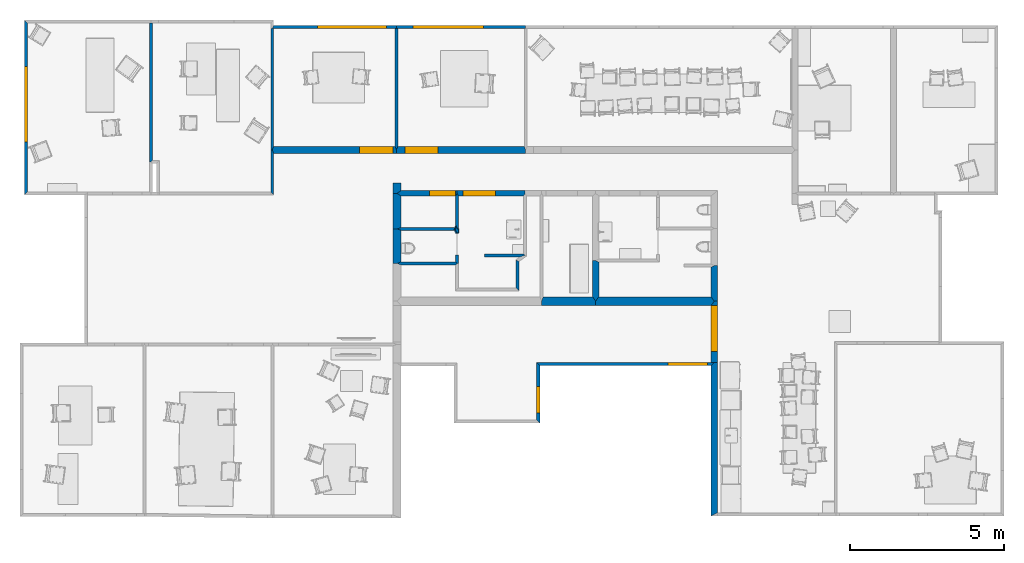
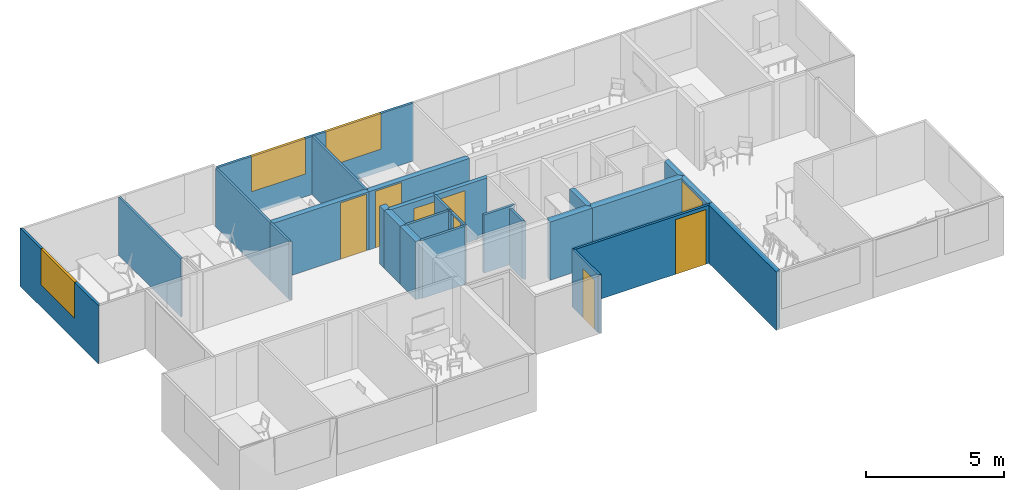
# One storey, part 3 of 26: 30 walls, 7 doors, 3 windows, 11 openings.
"""IFC2X3 building model written with IfcOpenShell, lengths in metres."""

from ifc_helpers import new_model, si_unit, direction, frame, origin_with_axes, place, context, subcontext, project, spatial, polyline, outline, extrude, type_object, element, fill, save


model = new_model("IFC2X3")

# Units and contexts
model_context = context("Model", 3, precision=1e-05, world=origin_with_axes(), true_north=direction((0.996, -0.093, 0.0)))
body_context = subcontext(model_context, "Body", "Model", "MODEL_VIEW")
ifc_project = project(units=[si_unit("AREAUNIT", "SQUARE_METRE"), si_unit("LENGTHUNIT", "METRE")], contexts=[model_context])

# Site, building, storey
site_placement = place(None, origin_with_axes())
site = spatial("IfcSite", under=ifc_project, at=site_placement, Name="Site", CompositionType="ELEMENT")
building_placement = place(site_placement, origin_with_axes())
building = spatial("IfcBuilding", under=site, at=building_placement, Name="Building", CompositionType="ELEMENT")
storey_placement = place(building_placement, frame((0.0, 0.0, 0.0500001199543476), z_axis=(0.0, 0.0, 1.0), x_axis=(1.0, 0.0, 0.0)))
storey = spatial("IfcBuildingStorey", under=building, at=storey_placement, Name="Story 0", CompositionType="ELEMENT", Elevation=0.0500000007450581)

# Wall, opening, window
wall_type_1 = type_object("IfcWallType", PredefinedType="STANDARD")
wall_1_placement = place(storey_placement, frame((6.05685252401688, 11.0852169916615, 0.0), z_axis=(0.0, 0.0, 1.0), x_axis=(1.0, 0.0, 0.0)))
wall_1 = element("IfcWallStandardCase", 1, at=wall_1_placement, inside=storey, type_object=wall_type_1, Name="Wall", context=body_context, shape_type="SweptSolid", body=[
    extrude(outline(polyline([(0.0, 0.0), (-0.0463822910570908, 5.68577108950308e-07), (0.00022896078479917, 0.100000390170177), (3.99570285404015, 0.100001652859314), (3.9957027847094, 1.6428992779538e-06), (3.94932049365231, 2.21147638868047e-06), (0.0, 0.0)])), origin_with_axes(), (0.0, 0.0, 1.0), 2.57293934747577),
])
opening_1_placement = place(wall_1_placement, frame((1.42447368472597, 0.0, 1.01125049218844), z_axis=(0.0, 0.0, 1.0), x_axis=(0.999999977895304, 0.0, 0.0)))
opening_1 = element("IfcOpeningElement", 2, at=opening_1_placement, cuts=wall_1, Name="OpeningElement", ObjectType="OPENING", context=body_context, shape_type="SweptSolid", body=[
    extrude(outline(polyline([(0.0, 0.0), (2.24892942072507, 0.0), (2.24892942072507, 1.5616888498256), (0.0, 1.5616888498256), (0.0, 0.0)])), frame((0.0, 0.0, 0.0), z_axis=(0.0, -1.0, 0.0), x_axis=(1.0, 0.0, 0.0)), (0.0, 0.0, -1.0), 0.100099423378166),
])
window_style_1 = type_object("IfcWindowStyle", Name="1aea7ef1-2002-4d68-9633-a0366e1a2a45", ConstructionType="ALUMINIUM", OperationType="SINGLE_PANEL", ParameterTakesPrecedence=True, Sizeable=True)
window_1_placement = place(opening_1_placement, origin_with_axes())
window_1 = element("IfcWindow", 3, at=window_1_placement, inside=storey, type_object=window_style_1, Name="Window", OverallHeight=1.5, OverallWidth=0.5, context=body_context, shape_type="SweptSolid", body=[
    extrude(outline(polyline([(0.0, 0.0), (-2.24892928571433, 0.0), (-2.24892928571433, 1.56168878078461), (0.0, 1.56168878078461), (0.0, 0.0)])), frame((0.0, 0.099999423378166, 0.0), z_axis=(0.0, 1.0, 0.0), x_axis=(-1.0, 0.0, 0.0)), (0.0, 0.0, -1.0), 0.099999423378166),
])
fill(opening_1, window_1)

# Wall, opening, door
wall_type_2 = type_object("IfcWallType", PredefinedType="STANDARD")
wall_2_placement = place(storey_placement, frame((6.05727640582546, 7.02928423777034, 0.0), z_axis=(0.0, 0.0, 1.0), x_axis=(1.0, 0.0, 0.0)))
wall_2 = element("IfcWallStandardCase", 4, at=wall_2_placement, inside=storey, type_object=wall_type_2, Name="Wall", context=body_context, shape_type="SweptSolid", body=[
    extrude(outline(polyline([(0.0, 0.0), (-0.0463825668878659, 0.114025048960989), (-1.24242034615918e-05, 0.228050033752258), (3.94889829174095, 0.22805289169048), (3.99528077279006, 0.114026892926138), (3.99528104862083, 2.41254225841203e-06), (0.0, 0.0)])), origin_with_axes(), (0.0, 0.0, 1.0), 2.57293934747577),
])
opening_2_placement = place(wall_2_placement, frame((2.79951395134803, 0.0, 0.0), z_axis=(0.0, 0.0, 1.0), x_axis=(1.00000002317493, 0.0, 0.0)))
opening_2 = element("IfcOpeningElement", 5, at=opening_2_placement, cuts=wall_2, Name="OpeningElement", ObjectType="OPENING", context=body_context, shape_type="SweptSolid", body=[
    extrude(outline(polyline([(0.0, 0.0), (1.08285600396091, 0.0), (1.08285600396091, 2.49675686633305), (0.0, 2.49675686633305), (0.0, 0.0)])), frame((0.0, 0.0, 0.0), z_axis=(0.0, -1.0, 0.0), x_axis=(1.0, 0.0, 0.0)), (0.0, 0.0, -1.0), 0.228150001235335),
])
door_style_1 = type_object("IfcDoorStyle", Name="38be4dd8-ad61-4c1c-8453-ee1f7c3b0e2e", ConstructionType="NOTDEFINED", OperationType="NOTDEFINED", ParameterTakesPrecedence=False, Sizeable=False)
door_1_placement = place(opening_2_placement, origin_with_axes())
door_1 = element("IfcDoor", 6, at=door_1_placement, inside=storey, type_object=door_style_1, Name="Door", OverallHeight=2.49675698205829, OverallWidth=1.08285702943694, context=body_context, shape_type="SweptSolid", body=[
    extrude(outline(polyline([(0.0, 0.0), (-1.08285599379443, 0.0), (-1.08285599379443, 2.49675698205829), (0.0, 2.49675698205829), (0.0, 0.0)])), frame((0.0, 0.228050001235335, 0.0), z_axis=(0.0, 1.0, 0.0), x_axis=(-1.0, 0.0, 0.0)), (0.0, 0.0, -1.0), 0.228050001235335),
])
fill(opening_2, door_1)

# Walls
wall_type_3 = type_object("IfcWallType", PredefinedType="STANDARD")
wall_3_placement = place(storey_placement, frame((10.0061730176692, 11.0852192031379, 0.0), z_axis=(0.0, 0.0, 1.0), x_axis=(1.0, 0.0, 0.0)))
element("IfcWallStandardCase", 7, at=wall_3_placement, inside=storey, type_object=wall_type_3, Name="Wall", context=body_context, shape_type="SweptSolid", body=[
    extrude(outline(polyline([(0.0, 0.0), (0.0463822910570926, -5.68577110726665e-07), (0.0927646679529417, -1.87350867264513e-07), (0.0927663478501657, -3.82788226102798), (0.0463841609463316, -3.94190807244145), (1.67989722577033e-06, -3.82788207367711), (0.0, 0.0)])), origin_with_axes(), (0.0, 0.0, 1.0), 2.57293934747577),
])
wall_type_4 = type_object("IfcWallType", PredefinedType="STANDARD")
wall_4_placement = place(storey_placement, frame((5.96408790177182, 11.0852123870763, 0.0), z_axis=(0.0, 0.0, 1.0), x_axis=(1.0, 0.0, 0.0)))
element("IfcWallStandardCase", 8, at=wall_4_placement, inside=storey, type_object=wall_type_4, Name="Wall", context=body_context, shape_type="SweptSolid", body=[
    extrude(outline(polyline([(0.0, 0.0), (0.0463823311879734, 5.17316238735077e-06), (0.0927646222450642, 4.60458527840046e-06), (0.0931760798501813, -3.82787811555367), (0.046805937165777, -3.94190310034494), (0.000423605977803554, -3.94190827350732), (0.0, 0.0)])), origin_with_axes(), (0.0, 0.0, 1.0), 2.57293934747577),
])
wall_type_5 = type_object("IfcWallType", PredefinedType="STANDARD")
wall_5_placement = place(storey_placement, frame((16.4379544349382, 2.36382815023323, 0.0), z_axis=(0.0, 0.0, 1.0), x_axis=(1.0, 0.0, 0.0)))
element("IfcWallStandardCase", 9, at=wall_5_placement, inside=storey, type_object=wall_type_5, Name="Wall", context=body_context, shape_type="SweptSolid", body=[
    extrude(outline(polyline([(0.0, 0.0), (-1.3115427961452e-06, 1.17787442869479), (0.098818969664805, 1.1778742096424), (0.197638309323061, 1.12787454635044), (0.197638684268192, -2.89764128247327e-08), (0.0988194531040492, -0.143047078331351), (0.0, 0.0)])), origin_with_axes(), (0.0, 0.0, 1.0), 2.57293934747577),
])
wall_type_6 = type_object("IfcWallType", PredefinedType="STANDARD")
wall_6_placement = place(storey_placement, frame((20.2917816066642, 2.36382962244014, 0.0), z_axis=(0.0, 0.0, 1.0), x_axis=(1.0, 0.0, 0.0)))
element("IfcWallStandardCase", 10, at=wall_6_placement, inside=storey, type_object=wall_type_6, Name="Wall", context=body_context, shape_type="SweptSolid", body=[
    extrude(outline(polyline([(0.0, 0.0), (-1.46586863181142e-06, 0.9625744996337), (0.101290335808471, 1.01257451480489), (0.202581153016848, 1.01257461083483), (0.202580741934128, -0.143047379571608), (0.101289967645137, -0.143047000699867), (0.0, 0.0)])), origin_with_axes(), (0.0, 0.0, 1.0), 2.57293934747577),
])
wall_type_7 = type_object("IfcWallType", PredefinedType="STANDARD")
wall_7_placement = place(storey_placement, frame((16.536773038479, 2.07773397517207, 0.0), z_axis=(0.0, 0.0, 1.0), x_axis=(1.0, 0.0, 0.0)))
element("IfcWallStandardCase", 11, at=wall_7_placement, inside=storey, type_object=wall_type_7, Name="Wall", context=body_context, shape_type="SweptSolid", body=[
    extrude(outline(polyline([(0.0, 0.0), (8.49563239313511e-07, 0.143047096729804), (0.098820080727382, 0.286094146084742), (3.7550085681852, 0.286095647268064), (3.85629853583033, 0.143048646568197), (3.75500874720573, 1.04468009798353e-06), (0.0, 0.0)])), origin_with_axes(), (0.0, 0.0, 1.0), 2.57293934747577),
])

# Wall, opening, door
wall_type_8 = type_object("IfcWallType", PredefinedType="STANDARD")
wall_8_placement = place(storey_placement, frame((10.2028889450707, 5.64056180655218, 0.0), z_axis=(0.0, 0.0, 1.0), x_axis=(1.0, 0.0, 0.0)))
wall_8 = element("IfcWallStandardCase", 12, at=wall_8_placement, inside=storey, type_object=wall_type_8, Name="Wall", context=body_context, shape_type="SweptSolid", body=[
    extrude(outline(polyline([(0.0, 0.0), (-0.133709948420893, 0.0883236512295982), (-8.80228858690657e-07, 0.176647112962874), (1.82463368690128, 0.176647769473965), (1.82463369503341, 0.0883247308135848), (1.77825128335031, 8.36025285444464e-07), (0.0, 0.0)])), origin_with_axes(), (0.0, 0.0, 1.0), 2.57293934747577),
])
opening_3_placement = place(wall_8_placement, frame((1.77825128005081, 0.176647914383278, 0.0), z_axis=(0.0, 0.0, 1.0), x_axis=(-0.999999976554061, 0.0, 0.0)))
opening_3 = element("IfcOpeningElement", 13, at=opening_3_placement, cuts=wall_8, Name="OpeningElement", ObjectType="OPENING", context=body_context, shape_type="SweptSolid", body=[
    extrude(outline(polyline([(0.0, 0.0), (0.85638998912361, 0.0), (0.85638998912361, 2.28598302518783), (0.0, 2.28598302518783), (0.0, 0.0)])), frame((0.0, 0.0, 0.0), z_axis=(0.0, -1.0, 0.0), x_axis=(1.0, 0.0, 0.0)), (0.0, 0.0, -1.0), 0.176747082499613),
])
door_style_2 = type_object("IfcDoorStyle", Name="8a87138f-3048-4f4a-89ad-730d641ec3af", ConstructionType="NOTDEFINED", OperationType="NOTDEFINED", ParameterTakesPrecedence=False, Sizeable=False)
door_2_placement = place(opening_3_placement, origin_with_axes())
door_2 = element("IfcDoor", 14, at=door_2_placement, inside=storey, type_object=door_style_2, Name="Door", OverallHeight=2.28598363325, OverallWidth=0.902772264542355, context=body_context, shape_type="SweptSolid", body=[
    extrude(outline(polyline([(0.0, 0.0), (-0.85638993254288, 0.0), (-0.85638993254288, 2.28598291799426), (0.0, 2.28598291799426), (0.0, 0.0)])), frame((0.0, 0.176647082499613, 0.0), z_axis=(0.0, 1.0, 0.0), x_axis=(-1.0, 0.0, 0.0)), (0.0, 0.0, -1.0), 0.176647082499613),
])
fill(opening_3, door_2)

wall_type_9 = type_object("IfcWallType", PredefinedType="STANDARD")
wall_9_placement = place(storey_placement, frame((20.2917823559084, 0.231410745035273, 0.0), z_axis=(0.0, 0.0, 1.0), x_axis=(1.0, 0.0, 0.0)))
wall_9 = element("IfcWallStandardCase", 15, at=wall_9_placement, inside=storey, type_object=wall_type_9, Name="Wall", context=body_context, shape_type="SweptSolid", body=[
    extrude(outline(polyline([(0.0, 0.0), (-5.70223647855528e-07, 1.8463242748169), (0.101289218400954, 1.98937187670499), (0.202579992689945, 1.98937149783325), (0.202581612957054, -4.53909647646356e-08), (0.101290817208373, 9.60299368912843e-08), (0.0, 0.0)])), origin_with_axes(), (0.0, 0.0, 1.0), 2.57293934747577),
])
opening_4_placement = place(wall_9_placement, frame((0.202580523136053, 0.347847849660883, 0.0), z_axis=(0.0, 0.0, 1.0), x_axis=(0.0, 0.999999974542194, 0.0)))
opening_4 = element("IfcOpeningElement", 16, at=opening_4_placement, cuts=wall_9, Name="OpeningElement", ObjectType="OPENING", context=body_context, shape_type="SweptSolid", body=[
    extrude(outline(polyline([(3.40507244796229e-17, 0.0), (1.49847638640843, 0.0), (1.49847638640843, 2.4450022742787), (3.40507244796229e-17, 2.4450022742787), (3.40507244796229e-17, 0.0)])), frame((0.0, 0.0, 0.0), z_axis=(0.0, -1.0, 0.0), x_axis=(1.0, 0.0, 0.0)), (0.0, 0.0, -1.0), 0.202680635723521),
])
door_style_3 = type_object("IfcDoorStyle", Name="f78e984d-f64c-49a8-8117-af87273f44b5", ConstructionType="NOTDEFINED", OperationType="NOTDEFINED", ParameterTakesPrecedence=False, Sizeable=False)
door_3_placement = place(opening_4_placement, origin_with_axes())
door_3 = element("IfcDoor", 17, at=door_3_placement, inside=storey, type_object=door_style_3, Name="Door", OverallHeight=2.44500286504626, OverallWidth=1.57621452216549, context=body_context, shape_type="SweptSolid", body=[
    extrude(outline(polyline([(-1.48586519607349e-17, 0.0), (-1.49847628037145, 0.0), (-1.49847628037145, 2.44500214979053), (-1.48586519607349e-17, 2.44500214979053), (-1.48586519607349e-17, 0.0)])), frame((0.0, 0.202580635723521, 0.0), z_axis=(0.0, 1.0, 0.0), x_axis=(-1.0, 0.0, 0.0)), (0.0, 0.0, -1.0), 0.202580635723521),
])
fill(opening_4, door_3)

# Walls
wall_type_10 = type_object("IfcWallType", PredefinedType="STANDARD")
wall_10_placement = place(storey_placement, frame((9.93547169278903, 4.57248195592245, 0.0), z_axis=(0.0, 0.0, 1.0), x_axis=(1.0, 0.0, 0.0)))
element("IfcWallStandardCase", 18, at=wall_10_placement, inside=storey, type_object=wall_type_10, Name="Wall", context=body_context, shape_type="SweptSolid", body=[
    extrude(outline(polyline([(0.0, 0.0), (-1.72954401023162e-06, 1.15640355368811), (0.133707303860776, 1.15640350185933), (0.267417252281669, 1.06807985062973), (0.267417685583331, 0.0463822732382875), (0.133709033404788, -5.18287812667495e-08), (0.0, 0.0)])), origin_with_axes(), (0.0, 0.0, 1.0), 2.57293934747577),
])
wall_type_11 = type_object("IfcWallType", PredefinedType="STANDARD")
wall_11_placement = place(storey_placement, frame((9.93546996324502, 5.72888550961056, 0.0), z_axis=(0.0, 0.0, 1.0), x_axis=(1.0, 0.0, 0.0)))
element("IfcWallStandardCase", 19, at=wall_11_placement, inside=storey, type_object=wall_type_11, Name="Wall", context=body_context, shape_type="SweptSolid", body=[
    extrude(outline(polyline([(0.0, 0.0), (4.69204785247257e-07, 0.331714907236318), (0.267418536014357, 0.331714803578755), (0.267418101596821, 0.0883234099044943), (0.133709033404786, -5.18287812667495e-08), (0.0, 0.0)])), origin_with_axes(), (0.0, 0.0, 1.0), 2.57293934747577),
])
wall_type_12 = type_object("IfcWallType", PredefinedType="STANDARD")
wall_12_placement = place(storey_placement, frame((5.96451150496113, 7.14330938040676, 0.0), z_axis=(0.0, 0.0, 1.0), x_axis=(1.0, 0.0, 0.0)))
element("IfcWallStandardCase", 20, at=wall_12_placement, inside=storey, type_object=wall_type_12, Name="Wall", context=body_context, shape_type="SweptSolid", body=[
    extrude(outline(polyline([(0.0, 0.0), (0.0463823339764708, -9.36754336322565e-08), (0.0927649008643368, -0.114025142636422), (0.0927651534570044, -1.4608070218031), (1.5503387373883e-07, -1.36804259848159), (0.0, 0.0)])), origin_with_axes(), (0.0, 0.0, 1.0), 2.57293934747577),
])
wall_type_13 = type_object("IfcWallType", PredefinedType="STANDARD")
wall_13_placement = place(storey_placement, frame((9.9354716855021, 3.44895785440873, 0.0), z_axis=(0.0, 0.0, 1.0), x_axis=(1.0, 0.0, 0.0)))
element("IfcWallStandardCase", 21, at=wall_13_placement, inside=storey, type_object=wall_type_13, Name="Wall", context=body_context, shape_type="SweptSolid", body=[
    extrude(outline(polyline([(0.0, 0.0), (7.2869301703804e-09, 1.12352410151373), (0.133709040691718, 1.12352404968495), (0.267417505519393, 1.07714170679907), (0.26741810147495, 0.0499999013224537), (0.133709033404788, -5.18287821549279e-08), (0.0, 0.0)])), origin_with_axes(), (0.0, 0.0, 1.0), 2.57293934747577),
])

# Wall, opening, door
wall_type_14 = type_object("IfcWallType", PredefinedType="STANDARD")
wall_14_placement = place(storey_placement, frame((12.0739049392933, 5.64056293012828, 0.0), z_axis=(0.0, 0.0, 1.0), x_axis=(1.0, 0.0, 0.0)))
wall_14 = element("IfcWallStandardCase", 22, at=wall_14_placement, inside=storey, type_object=wall_type_14, Name="Wall", context=body_context, shape_type="SweptSolid", body=[
    extrude(outline(polyline([(0.0, 0.0), (-0.0463822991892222, 0.0883236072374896), (-0.0463823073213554, 0.17664664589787), (2.16509353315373, 0.176647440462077), (2.16509349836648, 0.0883239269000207), (2.11509345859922, 4.48003340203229e-07), (0.0, 0.0)])), origin_with_axes(), (0.0, 0.0, 1.0), 2.57293934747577),
])
opening_5_placement = place(wall_14_placement, frame((1.20209442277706, 0.17664691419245, 0.0), z_axis=(0.0, 0.0, 1.0), x_axis=(-0.999999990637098, 0.0, 0.0)))
opening_5 = element("IfcOpeningElement", 23, at=opening_5_placement, cuts=wall_14, Name="OpeningElement", ObjectType="OPENING", context=body_context, shape_type="SweptSolid", body=[
    extrude(outline(polyline([(0.0, 0.0), (1.0519191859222, 0.0), (1.0519191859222, 2.32814514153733), (0.0, 2.32814514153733), (0.0, 0.0)])), frame((0.0, 0.0, 0.0), z_axis=(0.0, -1.0, 0.0), x_axis=(1.0, 0.0, 0.0)), (0.0, 0.0, -1.0), 0.176746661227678),
])
door_style_4 = type_object("IfcDoorStyle", Name="748f8d21-3029-44a3-9cfa-3a604a07355a", ConstructionType="NOTDEFINED", OperationType="NOTDEFINED", ParameterTakesPrecedence=False, Sizeable=False)
door_4_placement = place(opening_5_placement, origin_with_axes())
door_4 = element("IfcDoor", 24, at=door_4_placement, inside=storey, type_object=door_style_4, Name="Door", OverallHeight=2.3281458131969, OverallWidth=1.05191913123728, context=body_context, shape_type="SweptSolid", body=[
    extrude(outline(polyline([(0.0, 0.0), (-1.05191913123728, 0.0), (-1.05191913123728, 2.32814509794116), (0.0, 2.32814509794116), (0.0, 0.0)])), frame((0.0, 0.176646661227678, 0.0), z_axis=(0.0, 1.0, 0.0), x_axis=(-1.0, 0.0, 0.0)), (0.0, 0.0, -1.0), 0.176646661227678),
])
fill(opening_5, door_4)

wall_type_15 = type_object("IfcWallType", PredefinedType="STANDARD")
wall_15_placement = place(storey_placement, frame((10.0525574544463, 7.0292866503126, 0.0), z_axis=(0.0, 0.0, 1.0), x_axis=(1.0, 0.0, 0.0)))
wall_15 = element("IfcWallStandardCase", 25, at=wall_15_placement, inside=storey, type_object=wall_type_15, Name="Wall", context=body_context, shape_type="SweptSolid", body=[
    extrude(outline(polyline([(0.0, 0.0), (-2.75830775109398e-07, 0.11402448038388), (0.046381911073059, 0.228050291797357), (4.15910682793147, 0.228052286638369), (4.20548844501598, 0.114027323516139), (4.20548863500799, 1.89332890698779e-06), (0.0, 0.0)])), origin_with_axes(), (0.0, 0.0, 1.0), 2.57293934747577),
])
opening_6_placement = place(wall_15_placement, frame((0.273498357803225, 0.0, 0.0), z_axis=(0.0, 0.0, 1.0), x_axis=(0.999999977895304, 0.0, 0.0)))
opening_6 = element("IfcOpeningElement", 26, at=opening_6_placement, cuts=wall_15, Name="OpeningElement", ObjectType="OPENING", context=body_context, shape_type="SweptSolid", body=[
    extrude(outline(polyline([(0.0, 0.0), (1.08608885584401, 0.0), (1.08608885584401, 2.4979499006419), (0.0, 2.4979499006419), (0.0, 0.0)])), frame((0.0, 0.0, 0.0), z_axis=(0.0, -1.0, 0.0), x_axis=(1.0, 0.0, 0.0)), (0.0, 0.0, -1.0), 0.228150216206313),
])
door_style_5 = type_object("IfcDoorStyle", Name="6c345061-f934-42cb-ac2e-3c6001e3f2ad", ConstructionType="NOTDEFINED", OperationType="NOTDEFINED", ParameterTakesPrecedence=False, Sizeable=False)
door_5_placement = place(opening_6_placement, origin_with_axes())
door_5 = element("IfcDoor", 27, at=door_5_placement, inside=storey, type_object=door_style_5, Name="Door", OverallHeight=2.49795038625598, OverallWidth=1.0860887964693, context=body_context, shape_type="SweptSolid", body=[
    extrude(outline(polyline([(0.0, 0.0), (-1.08608879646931, 0.0), (-1.08608879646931, 2.49794979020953), (0.0, 2.49794979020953), (0.0, 0.0)])), frame((0.0, 0.228050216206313, 0.0), z_axis=(0.0, 1.0, 0.0), x_axis=(-1.0, 0.0, 0.0)), (0.0, 0.0, -1.0), 0.228050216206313),
])
fill(opening_6, door_5)

# Walls
wall_type_16 = type_object("IfcWallType", PredefinedType="STANDARD")
wall_16_placement = place(storey_placement, frame((20.2917822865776, 0.13141073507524, 0.0), z_axis=(0.0, 0.0, 1.0), x_axis=(1.0, 0.0, 0.0)))
element("IfcWallStandardCase", 28, at=wall_16_placement, inside=storey, type_object=wall_type_16, Name="Wall", context=body_context, shape_type="SweptSolid", body=[
    extrude(outline(polyline([(0.0, 0.0), (0.101290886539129, 0.10000010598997), (0.202581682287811, 0.0999999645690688), (0.202584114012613, -4.7979229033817), (5.32118100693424e-07, -4.89792269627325), (0.0, 0.0)])), origin_with_axes(), (0.0, 0.0, 1.0), 2.57293934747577),
])
wall_type_17 = type_object("IfcWallType", PredefinedType="STANDARD")
wall_17_placement = place(storey_placement, frame((14.7754878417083, 2.07773335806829, 0.0), z_axis=(0.0, 0.0, 1.0), x_axis=(1.0, 0.0, 0.0)))
element("IfcWallStandardCase", 29, at=wall_17_placement, inside=storey, type_object=wall_type_17, Name="Wall", context=body_context, shape_type="SweptSolid", body=[
    extrude(outline(polyline([(0.0, 0.0), (-1.00240111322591e-07, 0.143047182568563), (0.0499998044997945, 0.286094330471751), (1.66246659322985, 0.286094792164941), (1.7612860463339, 0.14304771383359), (1.76128519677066, 6.17103785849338e-07), (0.0, 0.0)])), origin_with_axes(), (0.0, 0.0, 1.0), 2.57293934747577),
])
wall_type_18 = type_object("IfcWallType", PredefinedType="STANDARD")
wall_18_placement = place(storey_placement, frame((11.9811403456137, 4.52609897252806, 0.0), z_axis=(0.0, 0.0, 1.0), x_axis=(1.0, 0.0, 0.0)))
element("IfcWallStandardCase", 30, at=wall_18_placement, inside=storey, type_object=wall_type_18, Name="Wall", context=body_context, shape_type="SweptSolid", body=[
    extrude(outline(polyline([(0.0, 0.0), (-6.55361382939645e-08, 0.171602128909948), (0.0463829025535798, 0.0463821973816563), (0.0927652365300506, 0.0463821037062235), (0.0927647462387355, -0.0803017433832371), (0.0463824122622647, -0.0803016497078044), (0.0, 0.0)])), origin_with_axes(), (0.0, 0.0, 1.0), 2.57293934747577),
])
wall_type_19 = type_object("IfcWallType", PredefinedType="STANDARD")
wall_19_placement = place(storey_placement, frame((11.9811399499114, 4.4271231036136, 0.0), z_axis=(0.0, 0.0, 1.0), x_axis=(1.0, 0.0, 0.0)))
element("IfcWallStandardCase", 31, at=wall_19_placement, inside=storey, type_object=wall_type_19, Name="Wall", context=body_context, shape_type="SweptSolid", body=[
    extrude(outline(polyline([(0.0, 0.0), (-0.0442628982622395, 0.111287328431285), (3.30166116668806e-07, 0.270577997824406), (0.0486570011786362, 0.148245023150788), (0.0463828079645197, 0.0186742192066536), (0.0, 0.0)])), origin_with_axes(), (0.0, 0.0, 1.0), 2.57293934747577),
])
wall_type_20 = type_object("IfcWallType", PredefinedType="STANDARD")
wall_20_placement = place(storey_placement, frame((10.2028891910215, 4.5260995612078, 0.0), z_axis=(0.0, 0.0, 1.0), x_axis=(1.0, 0.0, 0.0)))
element("IfcWallStandardCase", 32, at=wall_20_placement, inside=storey, type_object=wall_type_20, Name="Wall", context=body_context, shape_type="SweptSolid", body=[
    extrude(outline(polyline([(0.0, 0.0), (-0.133708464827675, 0.0463823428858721), (1.87350867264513e-07, 0.0927646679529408), (1.77825129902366, 0.0927636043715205), (1.82463405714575, 0.0463816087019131), (1.77825115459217, -5.88679743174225e-07), (0.0, 0.0)])), origin_with_axes(), (0.0, 0.0, 1.0), 2.57293934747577),
])
wall_type_21 = type_object("IfcWallType", PredefinedType="STANDARD")
wall_21_placement = place(storey_placement, frame((10.2028897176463, 3.39895774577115, 0.0), z_axis=(0.0, 0.0, 1.0), x_axis=(1.0, 0.0, 0.0)))
element("IfcWallStandardCase", 33, at=wall_21_placement, inside=storey, type_object=wall_type_21, Name="Wall", context=body_context, shape_type="SweptSolid", body=[
    extrude(outline(polyline([(0.0, 0.0), (-0.133708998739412, 0.0500000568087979), (6.9330750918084e-08, 0.100000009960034), (1.77825040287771, 0.100000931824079), (1.82463270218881, 0.050000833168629), (1.77825128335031, 8.36025285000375e-07), (0.0, 0.0)])), origin_with_axes(), (0.0, 0.0, 1.0), 2.57293934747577),
])

# Wall, opening
wall_type_22 = type_object("IfcWallType", PredefinedType="STANDARD")
wall_22_placement = place(storey_placement, frame((11.981140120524, 3.49895867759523, 0.0), z_axis=(0.0, 0.0, 1.0), x_axis=(1.0, 0.0, 0.0)))
wall_22 = element("IfcWallStandardCase", 34, at=wall_22_placement, inside=storey, type_object=wall_type_22, Name="Wall", context=body_context, shape_type="SweptSolid", body=[
    extrude(outline(polyline([(0.0, 0.0), (-1.70612597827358e-07, 0.928164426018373), (0.0463826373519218, 0.946838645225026), (0.0927649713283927, 0.946838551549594), (0.0927646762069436, -0.0499997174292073), (0.0463822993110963, -0.0500000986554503), (0.0, 0.0)])), origin_with_axes(), (0.0, 0.0, 1.0), 2.57293934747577),
])
opening_7_placement = place(wall_22_placement, frame((0.0927651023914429, 0.232436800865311, 0.0), z_axis=(0.0, 0.0, 1.0), x_axis=(0.0, 1.00000000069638, 0.0)))
element("IfcOpeningElement", 35, at=opening_7_placement, cuts=wall_22, Name="OpeningElement", ObjectType="OPENING", context=body_context, shape_type="SweptSolid", body=[
    extrude(outline(polyline([(-1.34999264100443e-16, 0.0), (0.685867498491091, 0.0), (0.685867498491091, 2.49261302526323), (-1.34999264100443e-16, 2.49261302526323), (-1.34999264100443e-16, 0.0)])), frame((0.0, 0.0, 0.0), z_axis=(0.0, -1.0, 0.0), x_axis=(1.0, 0.0, 0.0)), (0.0, 0.0, -1.0), 0.0928651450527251),
])

# Walls
wall_type_23 = type_object("IfcWallType", PredefinedType="STANDARD")
wall_23_placement = place(storey_placement, frame((11.9811404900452, 4.61886316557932, 0.0), z_axis=(0.0, 0.0, 1.0), x_axis=(1.0, 0.0, 0.0)))
element("IfcWallStandardCase", 36, at=wall_23_placement, inside=storey, type_object=wall_type_23, Name="Wall", context=body_context, shape_type="SweptSolid", body=[
    extrude(outline(polyline([(0.0, 0.0), (-2.6162413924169e-07, 1.02169947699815), (0.0463821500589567, 1.11002337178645), (0.0927644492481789, 1.02169976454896), (0.0927650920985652, -0.0463820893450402), (0.0463827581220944, -0.0463819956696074), (0.0, 0.0)])), origin_with_axes(), (0.0, 0.0, 1.0), 2.57293934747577),
])
wall_type_24 = type_object("IfcWallType", PredefinedType="STANDARD")
wall_24_placement = place(storey_placement, frame((2.01763517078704, 11.2697736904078, 0.0), z_axis=(0.0, 0.0, 1.0), x_axis=(1.0, 0.0, 0.0)))
element("IfcWallStandardCase", 37, at=wall_24_placement, inside=storey, type_object=wall_type_24, Name="Wall", context=body_context, shape_type="SweptSolid", body=[
    extrude(outline(polyline([(0.0, 0.0), (0.0463823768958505, 3.81226243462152e-07), (0.0927646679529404, -1.87350867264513e-07), (0.09276542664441, -4.46392678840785), (0.0463830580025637, -4.51392669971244), (7.24026093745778e-07, -4.513926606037), (0.0, 0.0)])), origin_with_axes(), (0.0, 0.0, 1.0), 2.57293934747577),
])
wall_type_25 = type_object("IfcWallType", PredefinedType="STANDARD")
wall_25_placement = place(storey_placement, frame((13.9366230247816, 2.65763823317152, 0.0), z_axis=(0.0, 0.0, 1.0), x_axis=(1.0, 0.0, 0.0)))
element("IfcWallStandardCase", 38, at=wall_25_placement, inside=storey, type_object=wall_type_25, Name="Wall", context=body_context, shape_type="SweptSolid", body=[
    extrude(outline(polyline([(0.0, 0.0), (9.32388701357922e-07, 0.91005852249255), (0.100000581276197, 0.857331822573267), (0.0999999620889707, -0.0999998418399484), (0.0, 0.0)])), origin_with_axes(), (0.0, 0.0, 1.0), 2.57293934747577),
])
wall_type_26 = type_object("IfcWallType", PredefinedType="STANDARD")
wall_26_placement = place(storey_placement, frame((12.9254823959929, 3.66412340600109, 0.0), z_axis=(0.0, 0.0, 1.0), x_axis=(1.0, 0.0, 0.0)))
element("IfcWallStandardCase", 39, at=wall_26_placement, inside=storey, type_object=wall_type_26, Name="Wall", context=body_context, shape_type="SweptSolid", body=[
    extrude(outline(polyline([(0.0, 0.0), (6.93307526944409e-08, 0.100000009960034), (1.2635172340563, 0.100000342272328), (1.31351720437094, 0.0500003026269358), (1.15198139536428, 1.65332433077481e-07), (0.0, 0.0)])), origin_with_axes(), (0.0, 0.0, 1.0), 2.57293934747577),
])

# Wall, opening, window
wall_type_27 = type_object("IfcWallType", PredefinedType="STANDARD")
wall_27_placement = place(storey_placement, frame((-2.05416835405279, 11.369772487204, 0.0), z_axis=(0.0, 0.0, 1.0), x_axis=(1.0, 0.0, 0.0)))
wall_27 = element("IfcWallStandardCase", 40, at=wall_27_placement, inside=storey, type_object=wall_type_27, Name="Wall", context=body_context, shape_type="SweptSolid", body=[
    extrude(outline(polyline([(0.0, 0.0), (0.0999999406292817, -0.100000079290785), (0.100001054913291, -5.59450802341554), (1.09505322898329e-06, -5.68727264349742), (0.0, 0.0)])), origin_with_axes(), (0.0, 0.0, 1.0), 2.57293934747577),
])
opening_8_placement = place(wall_27_placement, frame((0.100000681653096, -3.96318016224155, 0.97703035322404), z_axis=(0.0, 0.0, 1.0), x_axis=(0.0, 0.999999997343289, 0.0)))
opening_8 = element("IfcOpeningElement", 41, at=opening_8_placement, cuts=wall_27, Name="OpeningElement", ObjectType="OPENING", context=body_context, shape_type="SweptSolid", body=[
    extrude(outline(polyline([(2.16080751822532e-17, 0.0), (2.44464244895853, 0.0), (2.44464244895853, 1.59590888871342), (2.16080751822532e-17, 1.59590888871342), (2.16080751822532e-17, 0.0)])), frame((0.0, 0.0, 0.0), z_axis=(0.0, -1.0, 0.0), x_axis=(1.0, 0.0, 0.0)), (0.0, 0.0, -1.0), 0.100099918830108),
])
window_style_2 = type_object("IfcWindowStyle", Name="7332570c-274b-4bc4-bf67-fd862ec7ca33", ConstructionType="ALUMINIUM", OperationType="SINGLE_PANEL", ParameterTakesPrecedence=True, Sizeable=True)
window_2_placement = place(opening_8_placement, origin_with_axes())
window_2 = element("IfcWindow", 42, at=window_2_placement, inside=storey, type_object=window_style_2, Name="Window", OverallHeight=1.5, OverallWidth=0.5, context=body_context, shape_type="SweptSolid", body=[
    extrude(outline(polyline([(2.28213334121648e-16, 0.0), (-2.44464246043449, 0.0), (-2.44464246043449, 1.59590888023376), (2.28213334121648e-16, 1.59590888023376), (2.28213334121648e-16, 0.0)])), frame((0.0, 0.0999999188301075, 0.0), z_axis=(0.0, 1.0, 0.0), x_axis=(-1.0, 0.0, 0.0)), (0.0, 0.0, -1.0), 0.0999999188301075),
])
fill(opening_8, window_2)

wall_type_28 = type_object("IfcWallType", PredefinedType="STANDARD")
wall_28_placement = place(storey_placement, frame((10.0989376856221, 11.0852190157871, 0.0), z_axis=(0.0, 0.0, 1.0), x_axis=(1.0, 0.0, 0.0)))
wall_28 = element("IfcWallStandardCase", 43, at=wall_28_placement, inside=storey, type_object=wall_type_28, Name="Wall", context=body_context, shape_type="SweptSolid", body=[
    extrude(outline(polyline([(0.0, 0.0), (-0.0463823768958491, -3.81226243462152e-07), (-0.0463823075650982, 0.0999996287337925), (4.15910727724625, 0.100001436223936), (4.1591072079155, 1.42626390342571e-06), (4.1127249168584, 1.99484101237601e-06), (0.0, 0.0)])), origin_with_axes(), (0.0, 0.0, 1.0), 2.57293934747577),
])
opening_9_placement = place(wall_28_placement, frame((0.485336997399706, 0.0, 1.00195908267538), z_axis=(0.0, 0.0, 1.0), x_axis=(0.999999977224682, 0.0, 0.0)))
opening_9 = element("IfcOpeningElement", 44, at=opening_9_placement, cuts=wall_28, Name="OpeningElement", ObjectType="OPENING", context=body_context, shape_type="SweptSolid", body=[
    extrude(outline(polyline([(1.77635683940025e-15, 0.0), (2.30545474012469, 0.0), (2.30545474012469, 1.57098026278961), (1.77635683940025e-15, 1.57098026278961), (1.77635683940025e-15, 0.0)])), frame((0.0, 0.0, 0.0), z_axis=(0.0, -1.0, 0.0), x_axis=(1.0, 0.0, 0.0)), (0.0, 0.0, -1.0), 0.100099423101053),
])
window_style_3 = type_object("IfcWindowStyle", Name="758db9e6-e359-4f93-a98d-fad932a6dbdb", ConstructionType="ALUMINIUM", OperationType="SINGLE_PANEL", ParameterTakesPrecedence=True, Sizeable=True)
window_3_placement = place(opening_9_placement, origin_with_axes())
window_3 = element("IfcWindow", 45, at=window_3_placement, inside=storey, type_object=window_style_3, Name="Window", OverallHeight=1.5, OverallWidth=0.5, context=body_context, shape_type="SweptSolid", body=[
    extrude(outline(polyline([(0.0, 0.0), (-2.30545460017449, 0.0), (-2.30545460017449, 1.57098019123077), (0.0, 1.57098019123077), (0.0, 0.0)])), frame((0.0, 0.0999994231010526, 0.0), z_axis=(0.0, 1.0, 0.0), x_axis=(-1.0, 0.0, 0.0)), (0.0, 0.0, -1.0), 0.0999994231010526),
])
fill(opening_9, window_3)

# Wall, opening, door
wall_type_29 = type_object("IfcWallType", PredefinedType="STANDARD")
wall_29_placement = place(storey_placement, frame((14.7181639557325, 0.131409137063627, 0.0), z_axis=(0.0, 0.0, 1.0), x_axis=(1.0, 0.0, 0.0)))
wall_29 = element("IfcWallStandardCase", 46, at=wall_29_placement, inside=storey, type_object=wall_type_29, Name="Wall", context=body_context, shape_type="SweptSolid", body=[
    extrude(outline(polyline([(0.0, 0.0), (-0.099999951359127, 0.0999999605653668), (5.57361840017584, 0.100001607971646), (5.67490921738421, 0.100001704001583), (5.57361833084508, 1.59801161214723e-06), (0.0, 0.0)])), origin_with_axes(), (0.0, 0.0, 1.0), 2.57293934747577),
])
opening_10_placement = place(wall_29_placement, frame((5.4532855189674, 0.100001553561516, 0.0), z_axis=(0.0, 0.0, 1.0), x_axis=(-0.999999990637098, 0.0, 0.0)))
opening_10 = element("IfcOpeningElement", 47, at=opening_10_placement, cuts=wall_29, Name="OpeningElement", ObjectType="OPENING", context=body_context, shape_type="SweptSolid", body=[
    extrude(outline(polyline([(0.0, 0.0), (1.28055600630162, 0.0), (1.28055600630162, 2.41979598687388), (0.0, 2.41979598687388), (0.0, 0.0)])), frame((0.0, 0.0, 0.0), z_axis=(0.0, -1.0, 0.0), x_axis=(1.0, 0.0, 0.0)), (0.0, 0.0, -1.0), 0.100099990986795),
])
door_style_6 = type_object("IfcDoorStyle", Name="8e677d87-e80b-4d0e-ad04-6e369d100ee9", ConstructionType="NOTDEFINED", OperationType="NOTDEFINED", ParameterTakesPrecedence=False, Sizeable=False)
door_6_placement = place(opening_10_placement, origin_with_axes())
door_6 = element("IfcDoor", 48, at=door_6_placement, inside=storey, type_object=door_style_6, Name="Door", OverallHeight=2.41979594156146, OverallWidth=1.28055593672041, context=body_context, shape_type="SweptSolid", body=[
    extrude(outline(polyline([(0.0, 0.0), (-1.28055592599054, 0.0), (-1.28055592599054, 2.41979594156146), (0.0, 2.41979594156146), (0.0, 0.0)])), frame((0.0, 0.0999999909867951, 0.0), z_axis=(0.0, 1.0, 0.0), x_axis=(-1.0, 0.0, 0.0)), (0.0, 0.0, -1.0), 0.0999999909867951),
])
fill(opening_10, door_6)

wall_type_30 = type_object("IfcWallType", PredefinedType="STANDARD")
wall_30_placement = place(storey_placement, frame((14.6181640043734, 0.231409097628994, 0.0), z_axis=(0.0, 0.0, 1.0), x_axis=(1.0, 0.0, 0.0)))
wall_30 = element("IfcWallStandardCase", 49, at=wall_30_placement, inside=storey, type_object=wall_type_30, Name="Wall", context=body_context, shape_type="SweptSolid", body=[
    extrude(outline(polyline([(0.0, 0.0), (0.099999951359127, -0.0999999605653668), (0.100000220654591, -1.9790037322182), (2.69295464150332e-07, -1.87900377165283), (0.0, 0.0)])), origin_with_axes(), (0.0, 0.0, 1.0), 2.57293934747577),
])
opening_11_placement = place(wall_30_placement, frame((0.0, -0.789884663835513, 0.0), z_axis=(0.0, 0.0, 1.0), x_axis=(0.0, -0.999999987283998, 0.0)))
opening_11 = element("IfcOpeningElement", 50, at=opening_11_placement, cuts=wall_30, Name="OpeningElement", ObjectType="OPENING", context=body_context, shape_type="SweptSolid", body=[
    extrude(outline(polyline([(1.32306546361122e-18, 0.0), (0.864453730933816, 0.0), (0.864453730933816, 2.17627716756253), (1.32306546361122e-18, 2.17627716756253), (1.32306546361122e-18, 0.0)])), frame((0.0, 0.0, 0.0), z_axis=(0.0, -1.0, 0.0), x_axis=(1.0, 0.0, 0.0)), (0.0, 0.0, -1.0), 0.100099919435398),
])
door_style_7 = type_object("IfcDoorStyle", Name="d0ae5f1e-fb73-4afc-b567-293c3031f130", ConstructionType="NOTDEFINED", OperationType="NOTDEFINED", ParameterTakesPrecedence=False, Sizeable=False)
door_7_placement = place(opening_11_placement, origin_with_axes())
door_7 = element("IfcDoor", 51, at=door_7_placement, inside=storey, type_object=door_style_7, Name="Door", OverallHeight=2.17627711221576, OverallWidth=0.864453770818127, context=body_context, shape_type="SweptSolid", body=[
    extrude(outline(polyline([(-3.58379639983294e-18, 0.0), (-0.864453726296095, 0.0), (-0.864453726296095, 2.17627711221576), (-3.58379639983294e-18, 2.17627711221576), (-3.58379639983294e-18, 0.0)])), frame((0.0, 0.0999999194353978, 0.0), z_axis=(0.0, 1.0, 0.0), x_axis=(-1.0, 0.0, 0.0)), (0.0, 0.0, -1.0), 0.0999999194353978),
])
fill(opening_11, door_7)

save(model, "model.ifc")
